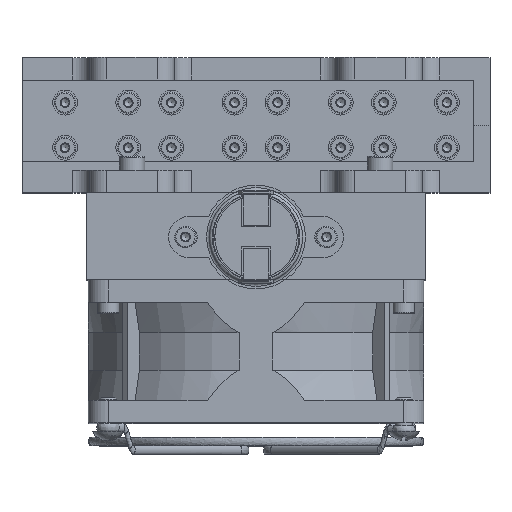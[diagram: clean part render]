
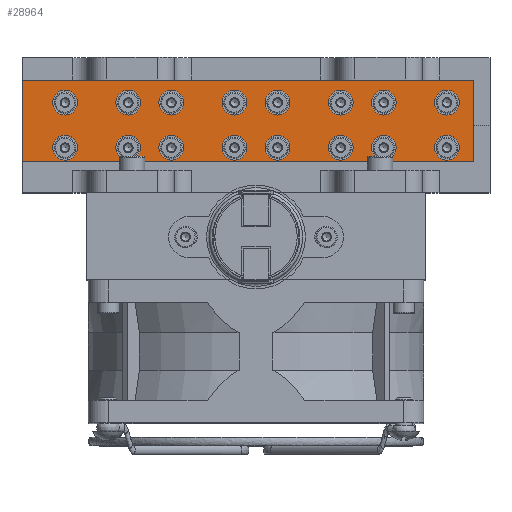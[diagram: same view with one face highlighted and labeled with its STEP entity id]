
A CAD part, top view. The second image highlights one B-rep face of the part: STEP entity #28964.
In plain terms, the highlighted planar face has unit normal (0, 0, 1).
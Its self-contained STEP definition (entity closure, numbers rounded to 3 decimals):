
#525=LINE('',#42071,#1857);
#526=LINE('',#42074,#1858);
#527=LINE('',#42076,#1859);
#528=LINE('',#42078,#1860);
#1857=VECTOR('',#35267,1000.);
#1858=VECTOR('',#35268,1000.);
#1859=VECTOR('',#35269,1000.);
#1860=VECTOR('',#35270,1000.);
#3631=PLANE('',#31175);
#6407=ORIENTED_EDGE('',*,*,#11039,.T.);
#6408=ORIENTED_EDGE('',*,*,#11040,.T.);
#6409=ORIENTED_EDGE('',*,*,#11041,.T.);
#6410=ORIENTED_EDGE('',*,*,#11042,.T.);
#6411=ORIENTED_EDGE('',*,*,#11031,.T.);
#6412=ORIENTED_EDGE('',*,*,#11027,.T.);
#6413=ORIENTED_EDGE('',*,*,#11023,.T.);
#6414=ORIENTED_EDGE('',*,*,#11019,.T.);
#6415=ORIENTED_EDGE('',*,*,#11015,.T.);
#6416=ORIENTED_EDGE('',*,*,#11011,.T.);
#6417=ORIENTED_EDGE('',*,*,#11007,.T.);
#6418=ORIENTED_EDGE('',*,*,#11003,.T.);
#6419=ORIENTED_EDGE('',*,*,#10999,.T.);
#6420=ORIENTED_EDGE('',*,*,#10995,.T.);
#6421=ORIENTED_EDGE('',*,*,#10991,.T.);
#6422=ORIENTED_EDGE('',*,*,#10987,.T.);
#6423=ORIENTED_EDGE('',*,*,#10983,.T.);
#6424=ORIENTED_EDGE('',*,*,#10979,.T.);
#6425=ORIENTED_EDGE('',*,*,#10975,.T.);
#6426=ORIENTED_EDGE('',*,*,#10971,.T.);
#10971=EDGE_CURVE('',#13604,#13604,#15483,.T.);
#10975=EDGE_CURVE('',#13608,#13608,#15487,.T.);
#10979=EDGE_CURVE('',#13612,#13612,#15491,.T.);
#10983=EDGE_CURVE('',#13616,#13616,#15495,.T.);
#10987=EDGE_CURVE('',#13620,#13620,#15499,.T.);
#10991=EDGE_CURVE('',#13624,#13624,#15503,.T.);
#10995=EDGE_CURVE('',#13628,#13628,#15507,.T.);
#10999=EDGE_CURVE('',#13632,#13632,#15511,.T.);
#11003=EDGE_CURVE('',#13636,#13636,#15515,.T.);
#11007=EDGE_CURVE('',#13640,#13640,#15519,.T.);
#11011=EDGE_CURVE('',#13644,#13644,#15523,.T.);
#11015=EDGE_CURVE('',#13648,#13648,#15527,.T.);
#11019=EDGE_CURVE('',#13652,#13652,#15531,.T.);
#11023=EDGE_CURVE('',#13656,#13656,#15535,.T.);
#11027=EDGE_CURVE('',#13660,#13660,#15539,.T.);
#11031=EDGE_CURVE('',#13664,#13664,#15543,.T.);
#11039=EDGE_CURVE('',#13672,#13673,#525,.T.);
#11040=EDGE_CURVE('',#13673,#13674,#526,.T.);
#11041=EDGE_CURVE('',#13674,#13675,#527,.T.);
#11042=EDGE_CURVE('',#13675,#13672,#528,.T.);
#13604=VERTEX_POINT('',#41887);
#13608=VERTEX_POINT('',#41898);
#13612=VERTEX_POINT('',#41909);
#13616=VERTEX_POINT('',#41920);
#13620=VERTEX_POINT('',#41931);
#13624=VERTEX_POINT('',#41942);
#13628=VERTEX_POINT('',#41953);
#13632=VERTEX_POINT('',#41964);
#13636=VERTEX_POINT('',#41975);
#13640=VERTEX_POINT('',#41986);
#13644=VERTEX_POINT('',#41997);
#13648=VERTEX_POINT('',#42008);
#13652=VERTEX_POINT('',#42019);
#13656=VERTEX_POINT('',#42030);
#13660=VERTEX_POINT('',#42041);
#13664=VERTEX_POINT('',#42052);
#13672=VERTEX_POINT('',#42072);
#13673=VERTEX_POINT('',#42073);
#13674=VERTEX_POINT('',#42075);
#13675=VERTEX_POINT('',#42077);
#15483=CIRCLE('',#31063,2.2);
#15487=CIRCLE('',#31070,2.2);
#15491=CIRCLE('',#31077,2.2);
#15495=CIRCLE('',#31084,2.2);
#15499=CIRCLE('',#31091,2.2);
#15503=CIRCLE('',#31098,2.2);
#15507=CIRCLE('',#31105,2.2);
#15511=CIRCLE('',#31112,2.2);
#15515=CIRCLE('',#31119,2.2);
#15519=CIRCLE('',#31126,2.2);
#15523=CIRCLE('',#31133,2.2);
#15527=CIRCLE('',#31140,2.2);
#15531=CIRCLE('',#31147,2.2);
#15535=CIRCLE('',#31154,2.2);
#15539=CIRCLE('',#31161,2.2);
#15543=CIRCLE('',#31168,2.2);
#17232=EDGE_LOOP('',(#6407,#6408,#6409,#6410));
#17233=EDGE_LOOP('',(#6411));
#17234=EDGE_LOOP('',(#6412));
#17235=EDGE_LOOP('',(#6413));
#17236=EDGE_LOOP('',(#6414));
#17237=EDGE_LOOP('',(#6415));
#17238=EDGE_LOOP('',(#6416));
#17239=EDGE_LOOP('',(#6417));
#17240=EDGE_LOOP('',(#6418));
#17241=EDGE_LOOP('',(#6419));
#17242=EDGE_LOOP('',(#6420));
#17243=EDGE_LOOP('',(#6421));
#17244=EDGE_LOOP('',(#6422));
#17245=EDGE_LOOP('',(#6423));
#17246=EDGE_LOOP('',(#6424));
#17247=EDGE_LOOP('',(#6425));
#17248=EDGE_LOOP('',(#6426));
#19835=FACE_BOUND('',#17232,.T.);
#19836=FACE_BOUND('',#17233,.T.);
#19837=FACE_BOUND('',#17234,.T.);
#19838=FACE_BOUND('',#17235,.T.);
#19839=FACE_BOUND('',#17236,.T.);
#19840=FACE_BOUND('',#17237,.T.);
#19841=FACE_BOUND('',#17238,.T.);
#19842=FACE_BOUND('',#17239,.T.);
#19843=FACE_BOUND('',#17240,.T.);
#19844=FACE_BOUND('',#17241,.T.);
#19845=FACE_BOUND('',#17242,.T.);
#19846=FACE_BOUND('',#17243,.T.);
#19847=FACE_BOUND('',#17244,.T.);
#19848=FACE_BOUND('',#17245,.T.);
#19849=FACE_BOUND('',#17246,.T.);
#19850=FACE_BOUND('',#17247,.T.);
#19851=FACE_BOUND('',#17248,.T.);
#28964=ADVANCED_FACE('',(#19835,#19836,#19837,#19838,#19839,#19840,#19841,
#19842,#19843,#19844,#19845,#19846,#19847,#19848,#19849,#19850,#19851),
#3631,.T.);
#31063=AXIS2_PLACEMENT_3D('',#41886,#35037,#35038);
#31070=AXIS2_PLACEMENT_3D('',#41897,#35051,#35052);
#31077=AXIS2_PLACEMENT_3D('',#41908,#35065,#35066);
#31084=AXIS2_PLACEMENT_3D('',#41919,#35079,#35080);
#31091=AXIS2_PLACEMENT_3D('',#41930,#35093,#35094);
#31098=AXIS2_PLACEMENT_3D('',#41941,#35107,#35108);
#31105=AXIS2_PLACEMENT_3D('',#41952,#35121,#35122);
#31112=AXIS2_PLACEMENT_3D('',#41963,#35135,#35136);
#31119=AXIS2_PLACEMENT_3D('',#41974,#35149,#35150);
#31126=AXIS2_PLACEMENT_3D('',#41985,#35163,#35164);
#31133=AXIS2_PLACEMENT_3D('',#41996,#35177,#35178);
#31140=AXIS2_PLACEMENT_3D('',#42007,#35191,#35192);
#31147=AXIS2_PLACEMENT_3D('',#42018,#35205,#35206);
#31154=AXIS2_PLACEMENT_3D('',#42029,#35219,#35220);
#31161=AXIS2_PLACEMENT_3D('',#42040,#35233,#35234);
#31168=AXIS2_PLACEMENT_3D('',#42051,#35247,#35248);
#31175=AXIS2_PLACEMENT_3D('',#42070,#35265,#35266);
#35037=DIRECTION('',(0.,0.,-1.));
#35038=DIRECTION('',(0.,1.,0.));
#35051=DIRECTION('',(0.,0.,-1.));
#35052=DIRECTION('',(0.,1.,0.));
#35065=DIRECTION('',(0.,0.,-1.));
#35066=DIRECTION('',(0.,1.,0.));
#35079=DIRECTION('',(0.,0.,-1.));
#35080=DIRECTION('',(0.,1.,0.));
#35093=DIRECTION('',(0.,0.,-1.));
#35094=DIRECTION('',(0.,1.,0.));
#35107=DIRECTION('',(0.,0.,-1.));
#35108=DIRECTION('',(0.,1.,0.));
#35121=DIRECTION('',(0.,0.,-1.));
#35122=DIRECTION('',(0.,1.,0.));
#35135=DIRECTION('',(0.,0.,-1.));
#35136=DIRECTION('',(0.,1.,0.));
#35149=DIRECTION('',(0.,0.,-1.));
#35150=DIRECTION('',(0.,1.,0.));
#35163=DIRECTION('',(0.,0.,-1.));
#35164=DIRECTION('',(0.,1.,0.));
#35177=DIRECTION('',(0.,0.,-1.));
#35178=DIRECTION('',(0.,1.,0.));
#35191=DIRECTION('',(0.,0.,-1.));
#35192=DIRECTION('',(0.,1.,0.));
#35205=DIRECTION('',(0.,0.,-1.));
#35206=DIRECTION('',(0.,1.,0.));
#35219=DIRECTION('',(0.,0.,-1.));
#35220=DIRECTION('',(0.,1.,0.));
#35233=DIRECTION('',(0.,0.,-1.));
#35234=DIRECTION('',(0.,1.,0.));
#35247=DIRECTION('',(0.,0.,-1.));
#35248=DIRECTION('',(0.,1.,0.));
#35265=DIRECTION('',(0.,0.,1.));
#35266=DIRECTION('',(0.,1.,0.));
#35267=DIRECTION('',(0.,1.,0.));
#35268=DIRECTION('',(-1.,0.,0.));
#35269=DIRECTION('',(0.,-1.,0.));
#35270=DIRECTION('',(1.,0.,0.));
#41886=CARTESIAN_POINT('',(28.868,-0.659,32.345));
#41887=CARTESIAN_POINT('',(28.868,1.541,32.345));
#41897=CARTESIAN_POINT('',(17.668,-0.659,32.345));
#41898=CARTESIAN_POINT('',(17.668,1.541,32.345));
#41908=CARTESIAN_POINT('',(10.028,-0.659,32.345));
#41909=CARTESIAN_POINT('',(10.028,1.541,32.345));
#41919=CARTESIAN_POINT('',(-1.172,-0.659,32.345));
#41920=CARTESIAN_POINT('',(-1.172,1.541,32.345));
#41930=CARTESIAN_POINT('',(-8.812,-0.659,32.345));
#41931=CARTESIAN_POINT('',(-8.812,1.541,32.345));
#41941=CARTESIAN_POINT('',(-20.012,-0.659,32.345));
#41942=CARTESIAN_POINT('',(-20.012,1.541,32.345));
#41952=CARTESIAN_POINT('',(-27.652,-0.659,32.345));
#41953=CARTESIAN_POINT('',(-27.652,1.541,32.345));
#41963=CARTESIAN_POINT('',(-38.852,-0.659,32.345));
#41964=CARTESIAN_POINT('',(-38.852,1.541,32.345));
#41974=CARTESIAN_POINT('',(-38.852,-8.659,32.345));
#41975=CARTESIAN_POINT('',(-38.852,-6.459,32.345));
#41985=CARTESIAN_POINT('',(-27.652,-8.659,32.345));
#41986=CARTESIAN_POINT('',(-27.652,-6.459,32.345));
#41996=CARTESIAN_POINT('',(-20.012,-8.659,32.345));
#41997=CARTESIAN_POINT('',(-20.012,-6.459,32.345));
#42007=CARTESIAN_POINT('',(-8.812,-8.659,32.345));
#42008=CARTESIAN_POINT('',(-8.812,-6.459,32.345));
#42018=CARTESIAN_POINT('',(-1.172,-8.659,32.345));
#42019=CARTESIAN_POINT('',(-1.172,-6.459,32.345));
#42029=CARTESIAN_POINT('',(10.028,-8.659,32.345));
#42030=CARTESIAN_POINT('',(10.028,-6.459,32.345));
#42040=CARTESIAN_POINT('',(17.668,-8.659,32.345));
#42041=CARTESIAN_POINT('',(17.668,-6.459,32.345));
#42051=CARTESIAN_POINT('',(28.868,-8.659,32.345));
#42052=CARTESIAN_POINT('',(28.868,-6.459,32.345));
#42070=CARTESIAN_POINT('',(-6.492,-3.909,32.345));
#42071=CARTESIAN_POINT('',(33.508,-11.159,32.345));
#42072=CARTESIAN_POINT('',(33.508,-11.159,32.345));
#42073=CARTESIAN_POINT('',(33.508,3.341,32.345));
#42074=CARTESIAN_POINT('',(33.508,3.341,32.345));
#42075=CARTESIAN_POINT('',(-46.492,3.341,32.345));
#42076=CARTESIAN_POINT('',(-46.492,3.341,32.345));
#42077=CARTESIAN_POINT('',(-46.492,-11.159,32.345));
#42078=CARTESIAN_POINT('',(-46.492,-11.159,32.345));
